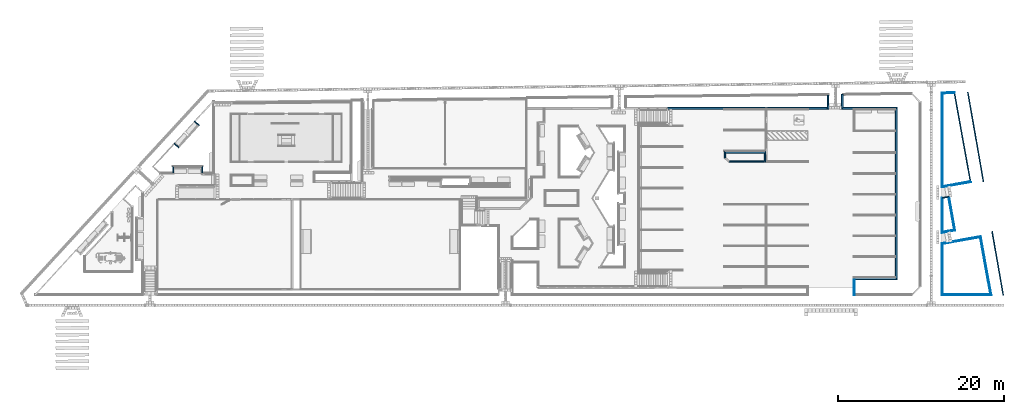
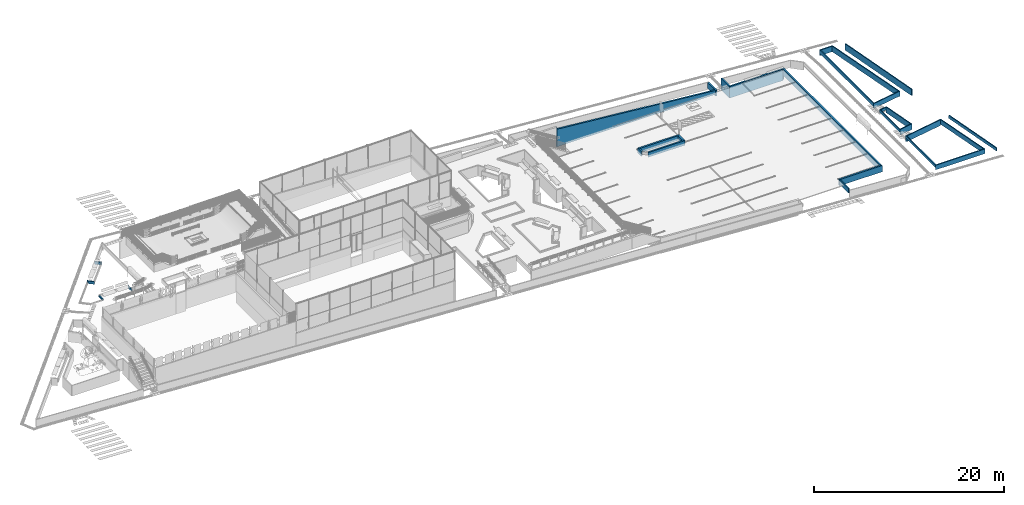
# One storey, part 20 of 237: 29 walls.
"""IFC2X3 building model written with IfcOpenShell, lengths in millimetres."""

from ifc_helpers import new_model, entity, si_unit, converted_unit, derived_unit, money_unit, direction, frame, origin_with_axes, place, context, subcontext, project, spatial, polyline, outline, extrude, clip, bounded_halfspace, material, layer, layer_set, layer_usage, type_object, element, save


model = new_model("IFC2X3")

# Units and contexts
model_context = context("Model", 3, precision=0.01, world=origin_with_axes(), true_north=direction((0.0, 1.0)))
body_context = subcontext(model_context, "Body", "Model", "MODEL_VIEW")
ifc_project = project(units=[si_unit("LENGTHUNIT", "METRE", prefix="MILLI"), si_unit("AREAUNIT", "SQUARE_METRE"), si_unit("VOLUMEUNIT", "CUBIC_METRE"), converted_unit("PLANEANGLEUNIT", "DEGREE", entity("IfcPlaneAngleMeasure", 0.0174532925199), si_unit("PLANEANGLEUNIT", "RADIAN"), dimensions=[0, 0, 0, 0, 0, 0, 0]), money_unit("USD"), converted_unit("TIMEUNIT", "Year", entity("IfcTimeMeasure", 31556926.0), si_unit("TIMEUNIT", "SECOND"), dimensions=[0, 0, 1, 0, 0, 0, 0]), si_unit("MASSUNIT", "GRAM", prefix="KILO"), si_unit("THERMODYNAMICTEMPERATUREUNIT", "DEGREE_CELSIUS"), si_unit("LUMINOUSINTENSITYUNIT", "LUMEN"), si_unit("ENERGYUNIT", "JOULE", prefix="MEGA"), derived_unit("THERMALCONDUCTANCEUNIT", [(si_unit("POWERUNIT", "WATT"), 1), (si_unit("LENGTHUNIT", "METRE"), -1), (si_unit("THERMODYNAMICTEMPERATUREUNIT", "KELVIN"), -1)]), derived_unit("SPECIFICHEATCAPACITYUNIT", [(si_unit("ENERGYUNIT", "JOULE"), 1), (si_unit("MASSUNIT", "GRAM", prefix="KILO"), -1), (si_unit("THERMODYNAMICTEMPERATUREUNIT", "KELVIN"), -1)]), derived_unit("MASSDENSITYUNIT", [(si_unit("MASSUNIT", "GRAM", prefix="KILO"), 1), (si_unit("VOLUMEUNIT", "CUBIC_METRE"), -1)])], contexts=[model_context])

# Site, building, storey
site_placement = place(None, origin_with_axes())
site = spatial("IfcSite", under=ifc_project, at=site_placement, Name="Local", CompositionType="ELEMENT")
building_placement = place(site_placement, origin_with_axes())
building = spatial("IfcBuilding", under=site, at=building_placement, Name="Construção", CompositionType="ELEMENT")
storey_placement = place(building_placement, origin_with_axes())
storey = spatial("IfcBuildingStorey", under=building, at=storey_placement, Name="Pavimento Térreo", CompositionType="ELEMENT", Elevation=0.0)

# Walls
ifc_material = material(Name="Bloco de Concreto - Estrutural")
ifc_layer_1 = layer(ifc_material, 120.0, ventilated="UNKNOWN")
ifc_layer_set_1 = layer_set([ifc_layer_1], Name="Bloco de Concreto - Estrutural 120")
ifc_layer_usage_1 = layer_usage(ifc_layer_set_1, "AXIS2", "NEGATIVE", 0.0)
wall_type_1 = type_object("IfcWallType", Name="Bloco de Concreto - Estrutural 120", PredefinedType="NOTDEFINED")
wall_1_placement = place(storey_placement, frame((136611.947086, 19526.7596942, -8169.60439564), z_axis=(0.0, 0.0, 1.0), x_axis=(-0.000177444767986, 0.999999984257, 0.0)))
element("IfcWallStandardCase", 1, at=wall_1_placement, inside=storey, type_object=wall_type_1, material=ifc_layer_usage_1, Name="Parede-084", context=body_context, shape_type="SweptSolid", body=[
    extrude(outline(polyline([(143.127327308, -120.0), (4164.78881512, -120.0), (4265.39836883, 0.0), (0.0, 0.0), (143.127327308, -120.0)])), origin_with_axes(), (0.0, 0.0, 1.0), 358.519878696),
])
ifc_layer_usage_2 = layer_usage(ifc_layer_set_1, "AXIS2", "NEGATIVE", 0.0)
wall_2_placement = place(storey_placement, frame((137534.872057, 23955.9650104, -8530.0818202), z_axis=(0.0, 0.0, 1.0), x_axis=(0.174615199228, -0.984636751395, 0.0)))
element("IfcWallStandardCase", 2, at=wall_2_placement, inside=storey, type_object=wall_type_1, material=ifc_layer_usage_2, Name="Parede-082", context=body_context, shape_type="SweptSolid", body=[
    extrude(outline(polyline([(120.00019412, -120.0), (4080.00158681, -120.0), (4200.00158532, 0.0), (0.0, 0.0), (120.00019412, -120.0)])), origin_with_axes(), (0.0, 0.0, 1.0), 718.997303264),
])
ifc_layer_usage_3 = layer_usage(ifc_layer_set_1, "AXIS2", "NEGATIVE", 0.0)
wall_3_placement = place(storey_placement, frame((142487.464968, 12142.5667354, -8426.58125863), z_axis=(0.0, 0.0, 1.0), x_axis=(-0.177733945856, 0.98407857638, 0.0)))
element("IfcWallStandardCase", 3, at=wall_3_placement, inside=storey, type_object=wall_type_1, material=ifc_layer_usage_3, Name="Parede-082", context=body_context, shape_type="SweptSolid", body=[
    extrude(outline(polyline([(-143.614622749, -120.0), (7083.77106777, -120.0), (6964.15066171, 0.0), (0.0, 0.0), (-143.614622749, -120.0)])), origin_with_axes(), (0.0, 0.0, 1.0), 599.284340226),
])
ifc_layer_usage_4 = layer_usage(ifc_layer_set_1, "AXIS2", "NEGATIVE", 0.0)
wall_4_placement = place(storey_placement, frame((136613.385522, 18295.507999, -8565.27841209), z_axis=(0.0, 0.0, 1.0), x_axis=(0.984636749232, 0.174615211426, 0.0)))
element("IfcWallStandardCase", 4, at=wall_4_placement, inside=storey, type_object=wall_type_1, material=ifc_layer_usage_4, Name="Parede-082", context=body_context, shape_type="SweptSolid", body=[
    extrude(outline(polyline([(100.59176999, -120.0), (4687.3729295, -120.0), (4806.99333556, 0.0), (0.0, 0.0), (100.59176999, -120.0)])), origin_with_axes(), (0.0, 0.0, 1.0), 737.981493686),
])
ifc_layer_usage_5 = layer_usage(ifc_layer_set_1, "AXIS2", "NEGATIVE", 0.0)
wall_5_placement = place(storey_placement, frame((44801.9381058, 29736.2048185, -1700.0), z_axis=(0.0, 0.0, 1.0), x_axis=(-0.737561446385, 0.675280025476, 0.0)))
element("IfcWallStandardCase", 5, at=wall_5_placement, inside=storey, type_object=wall_type_1, material=ifc_layer_usage_5, Name="Parede-085", context=body_context, shape_type="SweptSolid", body=[
    extrude(outline(polyline([(119.967984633, -120.0), (818.918986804, -120.0), (699.252098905, 0.0), (0.0, 0.0), (119.967984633, -120.0)])), origin_with_axes(), (0.0, 0.0, 1.0), 345.685448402),
])
ifc_layer_usage_6 = layer_usage(ifc_layer_set_1, "AXIS2", "NEGATIVE", 0.0)
wall_6_placement = place(storey_placement, frame((44062.4440926, 26656.451638, -1700.0), z_axis=(0.0, 0.0, 1.0), x_axis=(0.0, 1.0, 0.0)))
element("IfcWallStandardCase", 6, at=wall_6_placement, inside=storey, type_object=wall_type_1, material=ifc_layer_usage_6, Name="Parede-083", context=body_context, shape_type="SweptSolid", body=[
    extrude(outline(polyline([(120.0, -120.0), (772.702318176, -120.0), (892.702318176, 0.0), (120.0, 0.0), (120.0, -120.0)])), origin_with_axes(), (0.0, 0.0, 1.0), 166.898885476),
])
ifc_layer_usage_7 = layer_usage(ifc_layer_set_1, "AXIS2", "NEGATIVE", 0.0)
wall_7_placement = place(storey_placement, frame((136613.396458, 12142.5667354, -8423.97018014), z_axis=(0.0, 0.0, 1.0), x_axis=(1.0, 0.0, 0.0)))
element("IfcWallStandardCase", 7, at=wall_7_placement, inside=storey, type_object=wall_type_1, material=ifc_layer_usage_7, Name="Parede-081", context=body_context, shape_type="SweptSolid", body=[
    extrude(outline(polyline([(0.000213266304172, -120.0), (6017.68313338, -120.0), (5874.06851063, 0.0), (120.0, 0.0), (0.000213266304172, -120.0)])), origin_with_axes(), (0.0, 0.0, 1.0), 596.673261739),
])
ifc_layer_usage_8 = layer_usage(ifc_layer_set_1, "AXIS2", "NEGATIVE", 0.0)
wall_8_placement = place(storey_placement, frame((47679.2482549, 27549.1539562, -1700.0), z_axis=(0.0, 0.0, 1.0), x_axis=(0.0, -1.0, 0.0)))
element("IfcWallStandardCase", 8, at=wall_8_placement, inside=storey, type_object=wall_type_1, material=ifc_layer_usage_8, Name="Parede-085", context=body_context, shape_type="SweptSolid", body=[
    extrude(outline(polyline([(120.0, -120.0), (772.702318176, -120.0), (772.702318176, 0.0), (0.0, 0.0), (120.0, -120.0)])), origin_with_axes(), (0.0, 0.0, 1.0), 210.621373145),
])
ifc_layer_usage_9 = layer_usage(ifc_layer_set_1, "AXIS2", "NEGATIVE", 0.0)
wall_9_placement = place(storey_placement, frame((136611.190213, 23792.1579958, -8169.60439564), z_axis=(0.0, 0.0, 1.0), x_axis=(0.984636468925, 0.174616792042, 0.0)))
element("IfcWallStandardCase", 9, at=wall_9_placement, inside=storey, type_object=wall_type_1, material=ifc_layer_usage_9, Name="Parede-081", context=body_context, shape_type="SweptSolid", body=[
    extrude(outline(polyline([(100.60955371, -120.0), (818.094089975, -120.0), (938.094284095, 0.0), (0.0, 0.0), (100.60955371, -120.0)])), origin_with_axes(), (0.0, 0.0, 1.0), 358.519878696),
])
ifc_layer_usage_10 = layer_usage(ifc_layer_set_1, "AXIS2", "NEGATIVE", 0.0)
wall_10_placement = place(storey_placement, frame((126186.054139, 13922.7429381, -7716.95551592), z_axis=(0.0, 0.0, 1.0), x_axis=(-0.00115154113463, -0.999999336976, 0.0)))
element("IfcWallStandardCase", 10, at=wall_10_placement, inside=storey, type_object=wall_type_1, material=ifc_layer_usage_10, Name="Parede-082", context=body_context, shape_type="SweptSolid", body=[
    extrude(outline(polyline([(0.138185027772, -120.0), (1900.11957532, -120.0), (1900.11957532, 0.0), (0.0, 0.0), (0.138185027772, -120.0)])), origin_with_axes(), (0.0, 0.0, 1.0), 586.95551592),
])
ifc_layer_usage_11 = layer_usage(ifc_layer_set_1, "AXIS2", "NEGATIVE", 0.0)
wall_11_placement = place(storey_placement, frame((136612.167139, 36436.8176163, -8512.76114062), z_axis=(0.0, 0.0, 1.0), x_axis=(0.999995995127, 0.00283014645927, 0.0)))
element("IfcWallStandardCase", 11, at=wall_11_placement, inside=storey, type_object=wall_type_1, material=ifc_layer_usage_11, Name="Parede-082", context=body_context, shape_type="SweptSolid", body=[
    extrude(outline(polyline([(119.64836648, -120.0), (1491.55632038, -120.0), (1592.04471864, 0.0), (0.0, 0.0), (119.64836648, -120.0)])), origin_with_axes(), (0.0, 0.0, 1.0), 709.430659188),
])
ifc_layer_usage_12 = layer_usage(ifc_layer_set_1, "AXIS2", "NEGATIVE", 0.0)
wall_12_placement = place(storey_placement, frame((139829.655884, 36485.1078969, -8943.94099349), z_axis=(0.0, 0.0, 1.0), x_axis=(0.171992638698, -0.985098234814, 0.0)))
element("IfcWallStandardCase", 12, at=wall_12_placement, inside=storey, type_object=wall_type_1, material=ifc_layer_usage_12, Name="Parede-083", context=body_context, shape_type="SweptSolid", body=[
    extrude(outline(polyline([(0.0, -120.0), (10928.8020932, -120.0), (10928.8020932, 0.0), (0.0, 0.0), (0.0, -120.0)])), origin_with_axes(), (0.0, 0.0, 1.0), 815.660229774),
])
ifc_layer_usage_13 = layer_usage(ifc_layer_set_1, "AXIS2", "NEGATIVE", 0.0)
wall_13_placement = place(storey_placement, frame((143975.282055, 12022.5429502, -8570.87931658), z_axis=(0.0, 0.0, 1.0), x_axis=(-0.17191014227, 0.985112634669, 0.0)))
element("IfcWallStandardCase", 13, at=wall_13_placement, inside=storey, type_object=wall_type_1, material=ifc_layer_usage_13, Name="Parede-082", context=body_context, shape_type="SweptSolid", body=[
    extrude(outline(polyline([(0.0, -120.0), (7798.56131047, -120.0), (7798.56131047, 0.0), (0.0, 0.0), (0.0, -120.0)])), origin_with_axes(), (0.0, 0.0, 1.0), 386.593007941),
])
ifc_layer_usage_14 = layer_usage(ifc_layer_set_1, "AXIS2", "NEGATIVE", 0.0)
wall_14_placement = place(storey_placement, frame((46730.584148, 33040.5412611, -1700.0), z_axis=(0.0, 0.0, 1.0), x_axis=(0.737749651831, -0.675074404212, 0.0)))
element("IfcWallStandardCase", 14, at=wall_14_placement, inside=storey, type_object=wall_type_1, material=ifc_layer_usage_14, Name="Parede-084", context=body_context, shape_type="SweptSolid", body=[
    extrude(outline(polyline([(0.0, -120.0), (689.789856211, -120.0), (809.855343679, 0.0), (0.0, 0.0), (0.0, -120.0)])), origin_with_axes(), (0.0, 0.0, 1.0), 340.698330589),
])
ifc_layer_usage_15 = layer_usage(ifc_layer_set_1, "AXIS2", "NEGATIVE", 0.0)
wall_15_placement = place(storey_placement, frame((136613.396458, 12142.5667354, -8148.14329), z_axis=(0.0, 0.0, 1.0), x_axis=(-1.77721918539e-06, 0.999999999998, 0.0)))
element("IfcWallStandardCase", 15, at=wall_15_placement, inside=storey, type_object=wall_type_1, material=ifc_layer_usage_15, Name="Parede-081", context=body_context, shape_type="SweptSolid", body=[
    extrude(outline(polyline([(-0.000213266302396, -120.0), (6052.34949368, -120.0), (6152.94126367, 0.0), (-120.0, 0.0), (-0.000213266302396, -120.0)])), origin_with_axes(), (0.0, 0.0, 1.0), 320.846371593),
])
ifc_layer_usage_16 = layer_usage(ifc_layer_set_1, "AXIS2", "NEGATIVE", 0.0)
wall_16_placement = place(storey_placement, frame((140162.408831, 25640.6536404, -8429.07406365), z_axis=(0.0, 0.0, 1.0), x_axis=(-0.984636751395, -0.174615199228, 0.0)))
element("IfcWallStandardCase", 16, at=wall_16_placement, inside=storey, type_object=wall_type_1, material=ifc_layer_usage_16, Name="Parede-081", context=body_context, shape_type="SweptSolid", body=[
    extrude(outline(polyline([(120.461766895, -120.0), (3463.6794617, -120.0), (3606.84776577, 0.0), (0.0, 0.0), (120.461766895, -120.0)])), origin_with_axes(), (0.0, 0.0, 1.0), 625.743582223),
])
ifc_layer_usage_17 = layer_usage(ifc_layer_set_1, "AXIS2", "NEGATIVE", 0.0)
wall_17_placement = place(storey_placement, frame((136610.973964, 25010.8431992, -8235.46259134), z_axis=(0.0, 0.0, 1.0), x_axis=(0.000104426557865, 0.999999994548, 0.0)))
element("IfcWallStandardCase", 17, at=wall_17_placement, inside=storey, type_object=wall_type_1, material=ifc_layer_usage_17, Name="Parede-081", context=body_context, shape_type="SweptSolid", body=[
    extrude(outline(polyline([(143.168304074, -120.0), (11306.3261129, -120.0), (11425.9744794, 0.0), (0.0, 0.0), (143.168304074, -120.0)])), origin_with_axes(), (0.0, 0.0, 1.0), 432.132109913),
])
ifc_layer_usage_18 = layer_usage(ifc_layer_set_1, "AXIS2", "NEGATIVE", 0.0)
wall_18_placement = place(storey_placement, frame((138204.205482, 36441.323336, -8529.80587926), z_axis=(0.0, 0.0, 1.0), x_axis=(0.178395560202, -0.983958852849, 0.0)))
element("IfcWallStandardCase", 18, at=wall_18_placement, inside=storey, type_object=wall_type_1, material=ifc_layer_usage_18, Name="Parede-083", context=body_context, shape_type="SweptSolid", body=[
    extrude(outline(polyline([(100.488398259, -120.0), (10856.2875802, -120.0), (10976.7493471, 0.0), (0.0, 0.0), (100.488398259, -120.0)])), origin_with_axes(), (0.0, 0.0, 1.0), 726.475397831),
])
ifc_layer_usage_19 = layer_usage(ifc_layer_set_1, "AXIS2", "NEGATIVE", 0.0)
wall_19_placement = place(storey_placement, frame((138268.25617, 19820.4890935, -8530.0818202), z_axis=(0.0, 0.0, 1.0), x_axis=(-0.984636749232, -0.174615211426, 0.0)))
element("IfcWallStandardCase", 19, at=wall_19_placement, inside=storey, type_object=wall_type_1, material=ifc_layer_usage_19, Name="Parede-083", context=body_context, shape_type="SweptSolid", body=[
    extrude(outline(polyline([(119.999998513, -120.0), (1539.02508642, -120.0), (1682.15241373, 0.0), (0.0, 0.0), (119.999998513, -120.0)])), origin_with_axes(), (0.0, 0.0, 1.0), 718.997303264),
])
ifc_layer_2 = layer(ifc_material, 200.0, ventilated="UNKNOWN")
ifc_layer_set_2 = layer_set([ifc_layer_2], Name="Bloco de Concreto - Estrutural 200")
ifc_layer_usage_20 = layer_usage(ifc_layer_set_2, "AXIS2", "NEGATIVE", 0.0)
wall_type_2 = type_object("IfcWallType", Name="Bloco de Concreto - Estrutural 200", PredefinedType="NOTDEFINED")
wall_20_placement = place(storey_placement, frame((131263.866073, 34446.9763334, -8604.20448625), z_axis=(0.0, 0.0, 1.0), x_axis=(-1.0, 0.0, 0.0)))
element("IfcWallStandardCase", 20, at=wall_20_placement, inside=storey, type_object=wall_type_2, material=ifc_layer_usage_20, Name="Parede-081", context=body_context, shape_type="SweptSolid", body=[
    extrude(outline(polyline([(0.0, -200.0), (6500.68304122, -200.0), (6700.65145284, 0.0), (200.0, 0.0), (0.0, -200.0)])), origin_with_axes(), (0.0, 0.0, 1.0), 1469.29383606),
])
ifc_layer_usage_21 = layer_usage(ifc_layer_set_2, "AXIS2", "NEGATIVE", 0.0)
wall_21_placement = place(storey_placement, frame((103623.847021, 34651.4195376, -7527.55819588), z_axis=(0.0, 0.0, 1.0), x_axis=(0.999999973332, -0.000230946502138, 0.0)))
element("IfcWallStandardCase", 21, at=wall_21_placement, inside=storey, type_object=wall_type_2, material=ifc_layer_usage_21, Name="Parede-081", context=body_context, shape_type="Clipping", body=[
    clip(extrude(outline(polyline([(0.0, -200.0), (19239.1287418, -200.0), (19239.1287418, 0.0), (0.0, 0.0), (0.0, -200.0)])), origin_with_axes(), (0.0, 0.0, 1.0), 2532.95065286), bounded_halfspace(frame((203.980352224, -0.124063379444, 2244.39048775), z_axis=(-0.0905114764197, 5.50502022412e-05, -0.995895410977), x_axis=(0.0, 0.999999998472, 5.52770919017e-05)), True, origin_with_axes(), polyline([(2.560866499, 9.99986198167), (2.61162947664, -210.0), (19249.1287418, -210.0), (19249.0802732, 9.99986198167), (2.560866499, 9.99986198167)]))),
])
ifc_layer_usage_22 = layer_usage(ifc_layer_set_2, "AXIS2", "NEGATIVE", 0.0)
wall_22_placement = place(storey_placement, frame((131263.866073, 34446.9763334, -7930.0), z_axis=(0.0, 0.0, 1.0), x_axis=(0.0, -1.0, 0.0)))
element("IfcWallStandardCase", 22, at=wall_22_placement, inside=storey, type_object=wall_type_2, material=ifc_layer_usage_22, Name="Parede-081", context=body_context, shape_type="SweptSolid", body=[
    extrude(outline(polyline([(0.0, -200.0), (20324.2333953, -200.0), (20524.2333953, 0.0), (-200.0, 0.0), (0.0, -200.0)])), origin_with_axes(), (0.0, 0.0, 1.0), 800.0),
])
ifc_layer_usage_23 = layer_usage(ifc_layer_set_2, "AXIS2", "NEGATIVE", 0.0)
wall_23_placement = place(storey_placement, frame((122862.92906, 34446.9763334, -7753.28684486), z_axis=(0.0, 0.0, 1.0), x_axis=(0.0, 1.0, 0.0)))
element("IfcWallStandardCase", 23, at=wall_23_placement, inside=storey, type_object=wall_type_2, material=ifc_layer_usage_23, Name="Parede-081", context=body_context, shape_type="Clipping", body=[
    clip(clip(clip(extrude(outline(polyline([(0.0, -200.0), (1667.56903887, -200.0), (1667.56903887, 0.0), (0.0, 0.0), (0.0, -200.0)])), origin_with_axes(), (0.0, 0.0, 1.0), 740.148626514), bounded_halfspace(frame((-0.0559829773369, -66.7131921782, 734.043633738), z_axis=(7.59535096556e-05, 0.0905114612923, -0.995895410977), x_axis=(0.0, 0.99589541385, 0.0905114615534)), True, origin_with_axes(), polyline([(-183.854218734, -210.0), (446.037607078, -210.0), (446.037607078, 10.0), (-183.854218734, 10.0), (-183.854218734, -210.0)]))), bounded_halfspace(frame((-0.0559829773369, -66.7131921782, 734.043633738), z_axis=(7.59535096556e-05, 0.0905114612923, -0.995895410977), x_axis=(0.0, 0.99589541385, 0.0905114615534)), True, origin_with_axes(), polyline([(-183.854218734, -210.0), (446.037607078, -210.0), (446.037607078, 10.0), (-183.854218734, 10.0), (-183.854218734, -210.0)]))), bounded_halfspace(frame((-0.0559829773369, -66.7131921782, 734.043633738), z_axis=(7.59535096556e-05, 0.0905114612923, -0.995895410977), x_axis=(0.0, 0.99589541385, 0.0905114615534)), True, origin_with_axes(), polyline([(-183.854218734, -210.0), (446.037607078, -210.0), (446.037607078, 10.0), (-183.854218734, 10.0), (-183.854218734, -210.0)]))),
])
ifc_layer_usage_24 = layer_usage(ifc_layer_set_2, "AXIS2", "NEGATIVE", 0.0)
wall_24_placement = place(storey_placement, frame((131263.866073, 13922.7429381, -7930.0), z_axis=(0.0, 0.0, 1.0), x_axis=(-1.0, 0.0, 0.0)))
element("IfcWallStandardCase", 24, at=wall_24_placement, inside=storey, type_object=wall_type_2, material=ifc_layer_usage_24, Name="Parede-082", context=body_context, shape_type="SweptSolid", body=[
    extrude(outline(polyline([(200.0, -200.0), (5200.0, -200.0), (5200.0, 0.0), (0.0, 0.0), (200.0, -200.0)])), origin_with_axes(), (0.0, 0.0, 1.0), 800.0),
])
ifc_layer_usage_25 = layer_usage(ifc_layer_set_2, "AXIS2", "NEGATIVE", 0.0)
wall_25_placement = place(storey_placement, frame((124563.21462, 34446.9763334, -8604.20448625), z_axis=(0.0, 0.0, 1.0), x_axis=(-0.00015795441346, 0.999999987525, 0.0)))
element("IfcWallStandardCase", 25, at=wall_25_placement, inside=storey, type_object=wall_type_2, material=ifc_layer_usage_25, Name="Parede-081", context=body_context, shape_type="SweptSolid", body=[
    extrude(outline(polyline([(199.968411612, -200.0), (1807.8613392, -200.0), (1807.8613392, 0.0), (0.0, 0.0), (199.968411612, -200.0)])), origin_with_axes(), (0.0, 0.0, 1.0), 1469.29383606),
])
ifc_layer_usage_26 = layer_usage(ifc_layer_set_2, "AXIS2", "NEGATIVE", 0.0)
wall_26_placement = place(storey_placement, frame((111067.605143, 28232.512547, -7551.13846264), z_axis=(0.0, 0.0, 1.0), x_axis=(1.0, 0.0, 0.0)))
element("IfcWallStandardCase", 26, at=wall_26_placement, inside=storey, type_object=wall_type_2, material=ifc_layer_usage_26, Name="Parede-084", context=body_context, shape_type="SweptSolid", body=[
    extrude(outline(polyline([(-82.8427124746, -200.0), (4399.67554932, -200.0), (4199.67554932, 0.0), (0.0, 0.0), (-82.8427124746, -200.0)])), origin_with_axes(), (0.0, 0.0, 1.0), 600.0),
])
ifc_layer_usage_27 = layer_usage(ifc_layer_set_2, "AXIS2", "NEGATIVE", 0.0)
wall_27_placement = place(storey_placement, frame((115267.280693, 29149.9943344, -7551.13846264), z_axis=(0.0, 0.0, 1.0), x_axis=(-1.0, 0.0, 0.0)))
element("IfcWallStandardCase", 27, at=wall_27_placement, inside=storey, type_object=wall_type_2, material=ifc_layer_usage_27, Name="Parede-081", context=body_context, shape_type="SweptSolid", body=[
    extrude(outline(polyline([(-200.0, -200.0), (4800.00004917, -200.0), (4600.00004917, 0.0), (0.0, 0.0), (-200.0, -200.0)])), origin_with_axes(), (0.0, 0.0, 1.0), 600.0),
])
ifc_layer_usage_28 = layer_usage(ifc_layer_set_2, "AXIS2", "NEGATIVE", 0.0)
wall_28_placement = place(storey_placement, frame((110667.280643, 29149.9943344, -7551.13846264), z_axis=(0.0, 0.0, 1.0), x_axis=(0.0, -1.0, 0.0)))
element("IfcWallStandardCase", 28, at=wall_28_placement, inside=storey, type_object=wall_type_2, material=ifc_layer_usage_28, Name="Parede-082", context=body_context, shape_type="SweptSolid", body=[
    extrude(outline(polyline([(-200.0, -200.0), (600.0, -200.0), (517.157287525, 0.0), (0.0, 0.0), (-200.0, -200.0)])), origin_with_axes(), (0.0, 0.0, 1.0), 600.0),
])
ifc_layer_usage_29 = layer_usage(ifc_layer_set_2, "AXIS2", "NEGATIVE", 0.0)
wall_29_placement = place(storey_placement, frame((115267.280693, 28232.512547, -7551.13846264), z_axis=(0.0, 0.0, 1.0), x_axis=(0.0, 1.0, 0.0)))
element("IfcWallStandardCase", 29, at=wall_29_placement, inside=storey, type_object=wall_type_2, material=ifc_layer_usage_29, Name="Parede-085", context=body_context, shape_type="SweptSolid", body=[
    extrude(outline(polyline([(-200.0, -200.0), (1117.48178738, -200.0), (917.481787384, 0.0), (0.0, 0.0), (-200.0, -200.0)])), origin_with_axes(), (0.0, 0.0, 1.0), 600.0),
])

save(model, "model.ifc")
